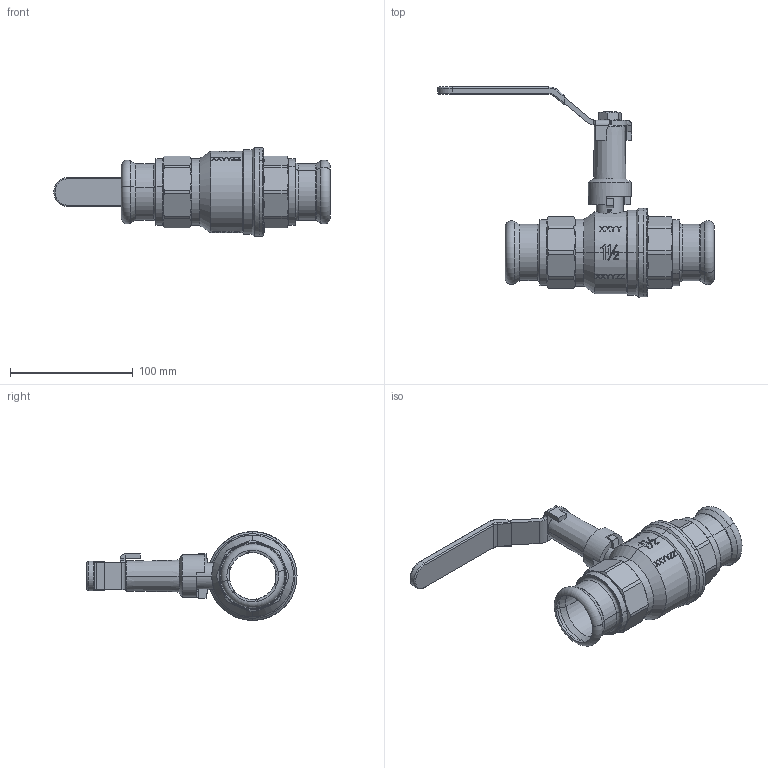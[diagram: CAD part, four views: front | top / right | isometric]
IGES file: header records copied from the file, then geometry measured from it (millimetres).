
Global section: file name: No Iges File Name specified; native system: AutoDesk Inventor R12.0; preprocessor: AutoDesk Inventor Iges Exporter R12.0; date: 20120119.091120; units: millimetre
Bounding box: 225.1 x 171.15 x 72.3 mm (x, y, z)
Volume: 246543.9 mm3; surface area: 113820.1 mm2
Topology: 1 solids, 8 shells, 1056 faces, 3226 edges, 2289 vertices
Faces by surface type: plane 464, bspline 210, revolution 132, cylinder 122, cone 92, torus 32, sphere 4
